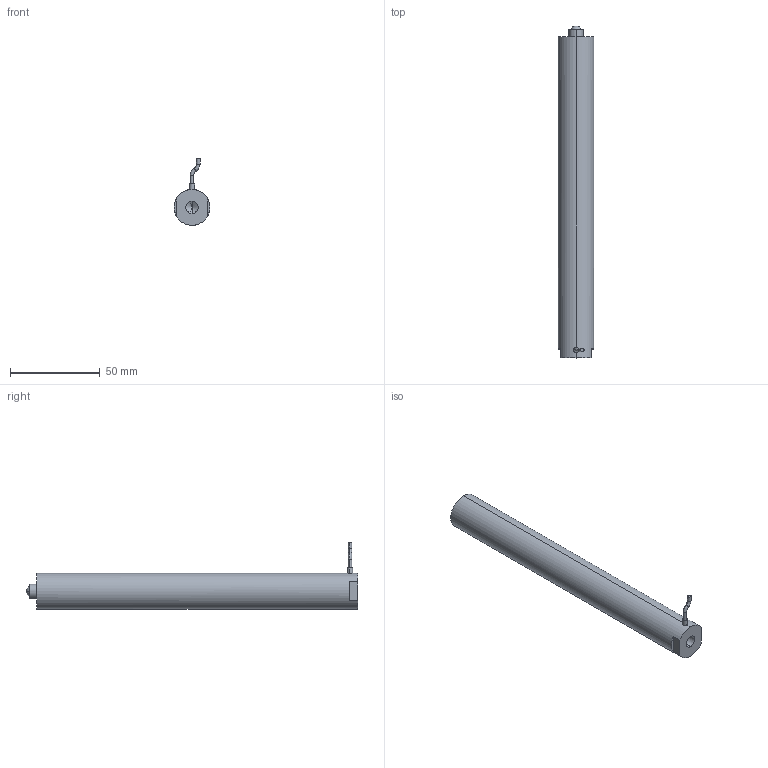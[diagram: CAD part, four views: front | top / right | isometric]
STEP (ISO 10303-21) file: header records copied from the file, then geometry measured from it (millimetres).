
FILE_DESCRIPTION (( 'STEP AP203' ), '1' );
FILE_NAME ('球头式180VS20.STEP', '2021-07-08T05:58:59', ( '微软用户' ), ( '微软公司' ), 'SwSTEP 2.0', 'SolidWorks 2016', '' );
FILE_SCHEMA (( 'CONFIG_CONTROL_DESIGN' ));
Length unit declared in the file: millimetre
Products named in the file (1): ⑩芛宒180VS20
Bounding box: 20 x 185 x 37.06 mm (x, y, z)
Volume: 56012.1 mm3; surface area: 12347.7 mm2
Topology: 1 solids, 1 shells, 944 faces, 2552 edges, 1696 vertices
Faces by surface type: bspline 525, plane 305, cylinder 106, torus 4, sphere 2, cone 2
Entity records: 45650 total; most frequent: CARTESIAN_POINT 26581, ORIENTED_EDGE 5092, EDGE_CURVE 2546, DIRECTION 1922, B_SPLINE_CURVE_WITH_KNOTS 1734, VERTEX_POINT 1694, EDGE_LOOP 1034, FACE_OUTER_BOUND 944
